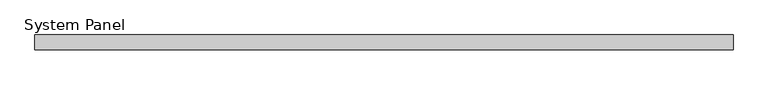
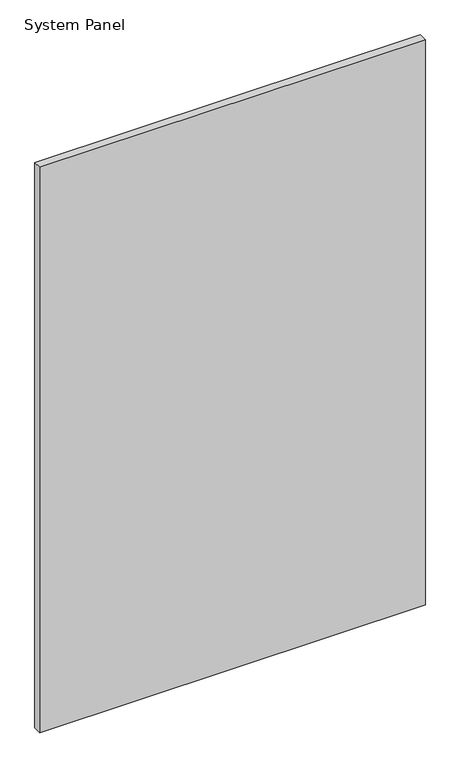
"""IFC4 building model written with IfcOpenShell, lengths in millimetres: plate geometry, System Panel : Panel_Glazed_Generic Showcase_30mm."""

import ifcopenshell
import ifcopenshell.guid

model = None  # the IFC model being written
_history = None  # IfcOwnerHistory: only IFC2X3 demands one
_inside = {}  # id of a spatial element -> (the spatial element, [elements in it])
_under = {}  # id of a project, library or spatial element -> (it, [spatial elements below it])
_declared = {}  # id of a project -> (the project, [libraries it declares])
_typed = {}  # id of a type object -> (the type object, [elements of that type])
_made_of = {}  # id of a material, layer set ... -> (it, [elements and type objects made of it])


def new_model(schema):
    """Start an empty IFC model of exactly this schema.

    Asked for "IFC4X3", IfcOpenShell would pick the latest addendum, in which some entities
    have other attributes; the version numbers below select the first issue.
    IFC2X3 requires an IfcOwnerHistory on every rooted entity: one is made here for all.
    """
    global model, _history
    if schema == "IFC4X3":
        model = ifcopenshell.file(schema_version=(4, 3, 0, 0))
    else:
        model = ifcopenshell.file(schema=schema)
    _inside.clear()
    _under.clear()
    _declared.clear()
    _typed.clear()
    _made_of.clear()
    _history = None
    if model.schema == "IFC2X3":
        org = make("IfcOrganization", Name="unknown")
        user = make(
            "IfcPersonAndOrganization",
            ThePerson=make("IfcPerson", FamilyName="unknown"),
            TheOrganization=org,
        )
        app = make(
            "IfcApplication",
            ApplicationDeveloper=org,
            Version="unknown",
            ApplicationFullName="unknown",
            ApplicationIdentifier="unknown",
        )
        _history = make(
            "IfcOwnerHistory",
            OwningUser=user,
            OwningApplication=app,
            ChangeAction="ADDED",
            CreationDate=0,
        )
    return model


def make(cls, **values):
    """One entity of the class cls with the attributes given. An attribute that is None is left unset."""
    return model.create_entity(
        cls, **{name: value for name, value in values.items() if value is not None}
    )


def rooted(cls, **values):
    """An entity with a GlobalId (a new one), such as an element, a storey or a relation."""
    return make(cls, GlobalId=ifcopenshell.guid.new(), OwnerHistory=_history, **values)


def si_unit(unit_type, name, prefix=None):
    """IfcSIUnit, for example si_unit("LENGTHUNIT", "METRE", prefix="MILLI")."""
    return make("IfcSIUnit", UnitType=unit_type, Prefix=prefix, Name=name)


def assignment(units):
    """IfcUnitAssignment: the units of a project."""
    return None if units is None else make("IfcUnitAssignment", Units=units)


def point(xyz):
    """IfcCartesianPoint."""
    return None if xyz is None else make("IfcCartesianPoint", Coordinates=xyz)


def direction(xyz):
    """IfcDirection."""
    return None if xyz is None else make("IfcDirection", DirectionRatios=xyz)


def frame(location, z_axis=None, x_axis=None):
    """IfcAxis2Placement3D, a coordinate frame: its origin and axes. An axis left out is left unset."""
    return make(
        "IfcAxis2Placement3D",
        Location=point(location),
        Axis=direction(z_axis),
        RefDirection=direction(x_axis),
    )


def origin():
    """The frame at (0, 0, 0) with its axes left unset."""
    return frame((0.0, 0.0, 0.0))


def origin_with_axes():
    """The frame at (0, 0, 0) with the z axis (0, 0, 1) and the x axis (1, 0, 0) written out."""
    return frame((0.0, 0.0, 0.0), z_axis=(0.0, 0.0, 1.0), x_axis=(1.0, 0.0, 0.0))


def place(relative_to, where):
    """IfcLocalPlacement: puts the frame where relative to a parent placement (None: the world)."""
    return make(
        "IfcLocalPlacement", PlacementRelTo=relative_to, RelativePlacement=where
    )


def context(
    kind, dimensions, precision=None, world=None, true_north=None, identifier=None
):
    """IfcGeometricRepresentationContext, for example the 3D "Model" context."""
    return make(
        "IfcGeometricRepresentationContext",
        ContextIdentifier=identifier,
        ContextType=kind,
        CoordinateSpaceDimension=dimensions,
        Precision=precision,
        WorldCoordinateSystem=world,
        TrueNorth=true_north,
    )


def project(units=None, contexts=None):
    """IfcProject with its units and contexts."""
    return rooted(
        "IfcProject",
        Name="project",
        RepresentationContexts=contexts,
        UnitsInContext=assignment(units),
    )


def spatial(cls, under=None, at=None, **own):
    """A site, building, storey or space (cls), placed at a placement, below another one or the project."""
    s = rooted(cls, ObjectPlacement=at, **own)
    if under is not None:
        _under.setdefault(under.id(), (under, []))[1].append(s)
    return s


def polyline(points):
    """IfcPolyline through the points."""
    return make("IfcPolyline", Points=[point(p) for p in points])


def outline(outer, holes=None, kind="AREA"):
    """IfcArbitraryClosedProfileDef: a profile drawn as a closed curve; with holes, ...WithVoids."""
    if holes is None:
        return make("IfcArbitraryClosedProfileDef", ProfileType=kind, OuterCurve=outer)
    return make(
        "IfcArbitraryProfileDefWithVoids",
        ProfileType=kind,
        OuterCurve=outer,
        InnerCurves=holes,
    )


def extrude(swept, where, along, depth):
    """IfcExtrudedAreaSolid: the profile swept, set in the frame where, extruded along a direction by depth."""
    return make(
        "IfcExtrudedAreaSolid",
        SweptArea=swept,
        Position=where,
        ExtrudedDirection=direction(along),
        Depth=depth,
    )


def shape(context_of_items, identifier, shape_type, items):
    """IfcShapeRepresentation: the items that make up one representation, for example the "Body"."""
    return make(
        "IfcShapeRepresentation",
        ContextOfItems=context_of_items,
        RepresentationIdentifier=identifier,
        RepresentationType=shape_type,
        Items=items,
    )


def source(mapping_origin, context_of_items, identifier, shape_type, items):
    """IfcRepresentationMap: a shape defined once, which mapped items show again and again."""
    return make(
        "IfcRepresentationMap",
        MappingOrigin=mapping_origin,
        MappedRepresentation=shape(context_of_items, identifier, shape_type, items),
    )


def transform(
    local_origin,
    x_axis=None,
    y_axis=None,
    z_axis=None,
    scale=None,
    scale2=None,
    scale3=None,
    uniform=True,
):
    """IfcCartesianTransformationOperator3D, or its non-uniform kind. x_axis, y_axis, z_axis: its Axis1, 2, 3."""
    if uniform:
        return make(
            "IfcCartesianTransformationOperator3D",
            Axis1=direction(x_axis),
            Axis2=direction(y_axis),
            LocalOrigin=point(local_origin),
            Scale=scale,
            Axis3=direction(z_axis),
        )
    return make(
        "IfcCartesianTransformationOperator3DnonUniform",
        Axis1=direction(x_axis),
        Axis2=direction(y_axis),
        LocalOrigin=point(local_origin),
        Scale=scale,
        Axis3=direction(z_axis),
        Scale2=scale2,
        Scale3=scale3,
    )


def mapped(mapping_source, mapping_target):
    """IfcMappedItem: shows the shape of a source again, moved by a transform."""
    return make(
        "IfcMappedItem", MappingSource=mapping_source, MappingTarget=mapping_target
    )


def made_of(thing, what):
    """Note that an element or type object is made of a material, layer set ...; save() writes the relation."""
    if what is not None:
        _made_of.setdefault(what.id(), (what, []))[1].append(thing)
    return thing


def element(
    cls,
    number,
    at=None,
    inside=None,
    cuts=None,
    type_object=None,
    material=None,
    context=None,
    identifier="Body",
    shape_type=None,
    held_by="IfcProductDefinitionShape",
    body=None,
    shapes=None,
    **own,
):
    """One element of the class cls, such as IfcWall. Its Tag is "e" and its number.

    at: its placement. inside: the storey or other place that contains it. cuts: it is an
    opening in that element (IfcRelVoidsElement). A single representation is given by context,
    identifier, shape_type and body (its items); several are given by shapes. held_by: the class
    of the entity that holds the representations. save() writes the other relations.
    """
    e = rooted(cls, Tag="e%d" % number, ObjectPlacement=at, **own)
    if body is not None:
        shapes = [shape(context, identifier, shape_type, body)]
    if shapes is not None:
        e.Representation = make(held_by, Representations=shapes)
    if inside is not None:
        _inside.setdefault(inside.id(), (inside, []))[1].append(e)
    if cuts is not None:
        rooted(
            "IfcRelVoidsElement", RelatingBuildingElement=cuts, RelatedOpeningElement=e
        )
    if type_object is not None:
        _typed.setdefault(type_object.id(), (type_object, []))[1].append(e)
    return made_of(e, material)


def aggregate(whole, parts):
    """IfcRelAggregates: a whole, such as a stair, and the parts it consists of."""
    return rooted("IfcRelAggregates", RelatingObject=whole, RelatedObjects=parts)


def save(model, path):
    """Write the relations noted so far, then the file.

    IfcRelAggregates (storeys below a building ...), IfcRelContainedInSpatialStructure (elements
    in a storey), IfcRelDefinesByType, IfcRelAssociatesMaterial and IfcRelDeclares: one each for
    every whole, place, type object, material and project.
    """
    for whole, parts in _under.values():
        aggregate(whole, parts)
    for where, things in _inside.values():
        rooted(
            "IfcRelContainedInSpatialStructure",
            RelatedElements=things,
            RelatingStructure=where,
        )
    for kind, things in _typed.values():
        rooted("IfcRelDefinesByType", RelatedObjects=things, RelatingType=kind)
    for what, things in _made_of.values():
        rooted("IfcRelAssociatesMaterial", RelatedObjects=things, RelatingMaterial=what)
    for by, libraries in _declared.values():
        rooted("IfcRelDeclares", RelatingContext=by, RelatedDefinitions=libraries)
    model.write(path)


def system_panel_5e5adc26(model_context):
    return source(origin(), model_context, "Body", "SweptSolid", [
        extrude(outline(polyline([(709.726735, -30.0), (-709.726735, -30.0), (-709.726735, 0.0), (709.726735, 0.0), (709.726735, -30.0)])), origin_with_axes(), (0.0, 0.0, 1.0), 2200.0),
    ])


if __name__ == "__main__":
    model = new_model("IFC4")
    model_context = context("Model", 3, world=origin())
    ifc_project = project(units=[si_unit("LENGTHUNIT", "METRE", prefix="MILLI")], contexts=[model_context])
    site = spatial("IfcSite", under=ifc_project)
    building = spatial("IfcBuilding", under=site)
    placement = place(None, origin())
    system_panel_shape = system_panel_5e5adc26(model_context)
    element("IfcPlate", 1, ObjectType="System Panel : Panel_Glazed_Generic Showcase_30mm", at=placement, inside=building, context=model_context, shape_type="MappedRepresentation", body=[
        mapped(system_panel_shape, transform((0.0, 0.0, 0.0), x_axis=(1.0, 0.0, 0.0), y_axis=(0.0, 1.0, 0.0), z_axis=(0.0, 0.0, 1.0))),
    ])
    save(model, "model.ifc")
